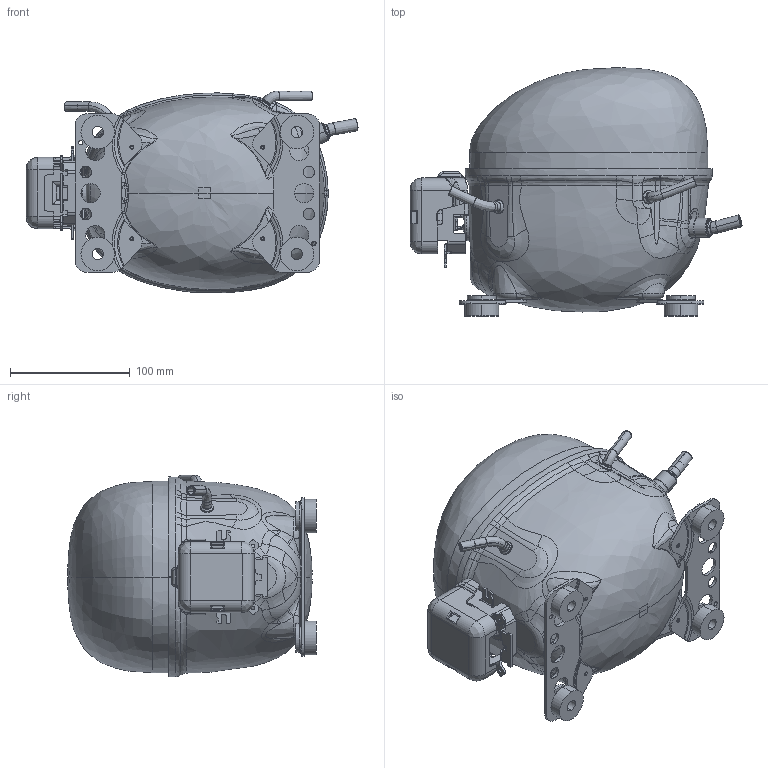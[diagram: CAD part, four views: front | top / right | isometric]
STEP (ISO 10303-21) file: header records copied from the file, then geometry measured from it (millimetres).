
FILE_DESCRIPTION((''),'2;1');
FILE_NAME('103F4187_103F4311_103F4372_ASM','2018-11-08T',('U244840'),(''),'CREO PARAMETRIC BY PTC INC, 2015380','CREO PARAMETRIC BY PTC INC, 2015380','');
FILE_SCHEMA(('CONFIG_CONTROL_DESIGN'));
Products named in the file (18): 103F4425; 103F4573; 117-3625_BODY; 117-3625_PINS_AF0; 117-3625_GLASS_FUSED; 117-3625_PINS; 117-3625_ASM; 102B1857_BENT_PS_AF2; 103F4949_BENT_PS_AF2; 103F4621; 102B1980_PS_BENT_AF0; 103F4644_BENT_PS_ASM; 103N0510; 103F4187_PS_BENT_103F4372_ASM; 103F4311; 103N2008; 118-3666; 103F4187_103F4311_103F4372_ASM
Assembly tree (24 placements, depth 4):
  103F4187_103F4311_103F4372_ASM
    103F4187_PS_BENT_103F4372_ASM
      103F4425
      103F4573  x2
      117-3625_ASM
        117-3625_BODY
        117-3625_PINS_AF0
        117-3625_GLASS_FUSED  x3
        117-3625_PINS  x2
      102B1857_BENT_PS_AF2
      103F4949_BENT_PS_AF2
      103F4644_BENT_PS_ASM
        103F4621
        102B1980_PS_BENT_AF0
      103N0510
    103F4311
    103N2008
    118-3666  x4
Bounding box: 276.77 x 207 x 168.28 mm (x, y, z)
Volume: 529377.1 mm3; surface area: 352770 mm2
Topology: 22 solids, 24 shells, 1270 faces, 3223 edges, 1995 vertices
Faces by surface type: bspline 402, plane 342, cylinder 328, torus 88, cone 70, revolution 16, sphere 14, extrusion 10
Entity records: 65209 total; most frequent: CARTESIAN_POINT 39883, ORIENTED_EDGE 5834, DIRECTION 4319, EDGE_CURVE 2919, VERTEX_POINT 1809, AXIS2_PLACEMENT_3D 1635, EDGE_LOOP 1203, FACE_OUTER_BOUND 1146
